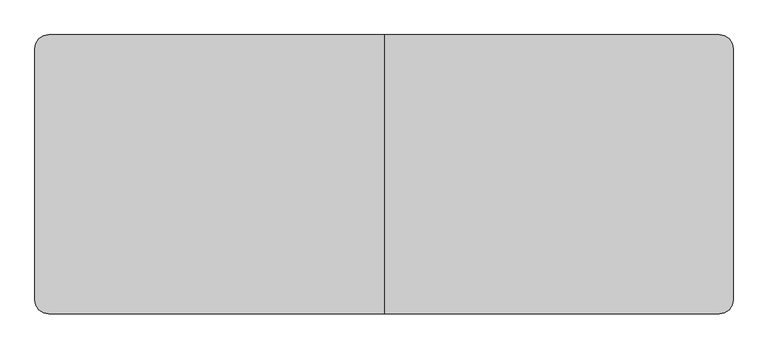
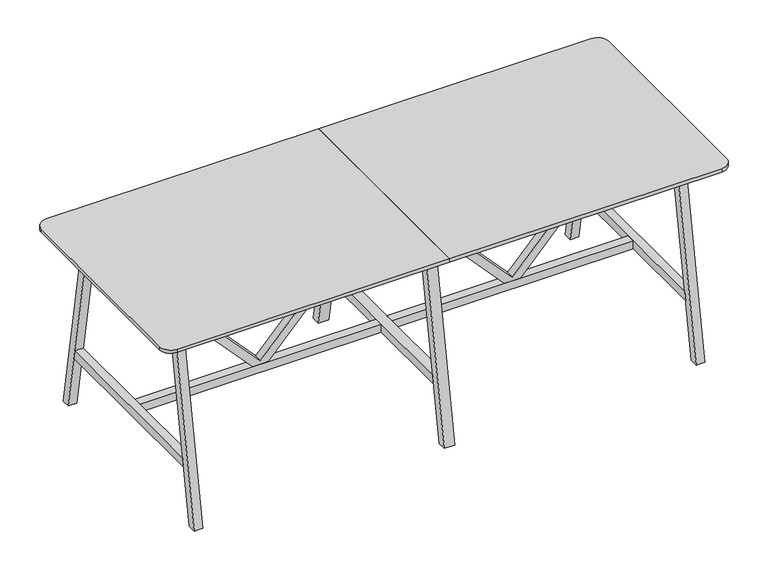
"""IFC4 building model written with IfcOpenShell, lengths in millimetres: furniture geometry, BDG_BossDesign_Tbls_AgentTables6Legs : AGE-HT-6L-3000-1200-3D."""

from ifc_helpers import new_model, si_unit, point, frame, frame_2d, origin, place, context, project, spatial, polyline, circle_curve, trimmed, segment, composite_curve, outline, extrude, source, transform, mapped, element, save


def furniture_60e90959(model_context):
    return source(origin(), model_context, "Body", "SweptSolid", [
        extrude(outline(polyline([(345.0, 624.0823957), (345.0, 708.4176043), (992.0, 1305.0), (1032.0, 1305.0), (1032.0, 1285.0), (365.0, 666.25), (1032.0, 47.5), (1032.0, 27.5), (992.0, 27.5), (345.0, 624.0823957)])), frame((0.0, -22.5000305, 0.0), z_axis=(0.0, 1.0, 0.0), x_axis=(0.0, 0.0, 1.0)), (0.0, 0.0, 1.0), 45.000061),
        extrude(outline(polyline([(345.0, -624.0823957), (992.0, -27.5), (1032.0, -27.5), (1032.0, -47.5), (365.0, -666.25), (1032.0, -1285.0), (1032.0, -1305.0), (992.0, -1305.0), (345.0, -708.4176043), (345.0, -624.0823957)])), frame((0.0, -22.5000305, 0.0), z_axis=(0.0, 1.0, 0.0), x_axis=(0.0, 0.0, 1.0)), (0.0, 0.0, 1.0), 45.000061),
        extrude(outline(polyline([(600.0, 0.0), (554.9999949, 0.0), (385.5, 970.0), (430.5000051, 970.0), (600.0, 0.0)])), frame((-27.5, 0.0, 0.0), z_axis=(1.0, 0.0, 0.0), x_axis=(0.0, 1.0, 0.0)), (0.0, 0.0, 1.0), 55.0),
        extrude(outline(polyline([(-600.0, 0.0), (-430.5000051, 970.0), (-385.5, 970.0), (-554.9999949, 0.0), (-600.0, 0.0)])), frame((-27.5, 0.0, 0.0), z_axis=(1.0, 0.0, 0.0), x_axis=(0.0, 1.0, 0.0)), (0.0, 0.0, 1.0), 55.0),
        extrude(outline(polyline([(502.5773161, 300.0), (-502.5773161, 300.0), (-494.7139143, 345.0), (494.7139143, 345.0), (502.5773161, 300.0)])), frame((-27.5, 0.0, 0.0), z_axis=(1.0, 0.0, 0.0), x_axis=(0.0, 1.0, 0.0)), (0.0, 0.0, 1.0), 55.0),
        extrude(outline(composite_curve([segment(polyline([(0.0, 600.0), (0.0, -600.0), (-1440.0, -600.0)]), True, "CONTINUOUS"), segment(trimmed(circle_curve(frame_2d((-1440.0, -540.0)), 60.0), [point((-1440.0, -600.0))], [point((-1500.0, -540.0))], False, "CARTESIAN"), True, "CONTINUOUS"), segment(polyline([(-1500.0, -540.0), (-1500.0, 540.0)]), True, "CONTINUOUS"), segment(trimmed(circle_curve(frame_2d((-1440.0, 540.0)), 60.0), [point((-1500.0, 540.0))], [point((-1440.0, 600.0))], False, "CARTESIAN"), True, "CONTINUOUS"), segment(polyline([(-1440.0, 600.0), (0.0, 600.0)]), True, "CONTINUOUS")], self_intersect=False)), frame((0.0, 0.0, 1032.0), z_axis=(0.0, 0.0, 1.0), x_axis=(1.0, 0.0, 0.0)), (0.0, 0.0, 1.0), 18.0),
        extrude(outline(polyline([(-494.7139143, 345.0), (494.7139143, 345.0), (502.5773161, 300.0), (-502.5773161, 300.0), (-494.7139143, 345.0)])), frame((1305.0, 0.0, 0.0), z_axis=(1.0, 0.0, 0.0), x_axis=(0.0, 1.0, 0.0)), (0.0, 0.0, 1.0), 45.0),
        extrude(outline(polyline([(600.0, 0.0), (554.9999949, 0.0), (385.5, 970.0), (430.5000051, 970.0), (600.0, 0.0)])), frame((-1350.0, 0.0, 0.0), z_axis=(1.0, 0.0, 0.0), x_axis=(0.0, 1.0, 0.0)), (0.0, 0.0, 1.0), 45.0),
        extrude(outline(polyline([(-600.0, 0.0), (-430.5000051, 970.0), (-385.5, 970.0), (-554.9999949, 0.0), (-600.0, 0.0)])), frame((-1350.0, 0.0, 0.0), z_axis=(1.0, 0.0, 0.0), x_axis=(0.0, 1.0, 0.0)), (0.0, 0.0, 1.0), 45.0),
        extrude(outline(polyline([(-494.7139143, 345.0), (494.7139143, 345.0), (502.5773161, 300.0), (-502.5773161, 300.0), (-494.7139143, 345.0)])), frame((-1350.0, 0.0, 0.0), z_axis=(1.0, 0.0, 0.0), x_axis=(0.0, 1.0, 0.0)), (0.0, 0.0, 1.0), 45.0),
        extrude(outline(polyline([(-426.6006165, 944.973938), (-404.2770691, 1032.0), (-379.5, 1032.0), (-401.8235474, 944.973938), (-426.6006165, 944.973938)])), frame((-1305.0, 0.0, 0.0), z_axis=(1.0, 0.0, 0.0), x_axis=(0.0, 1.0, 0.0)), (0.0, 0.0, 1.0), 2610.0),
        extrude(outline(polyline([(426.6006165, 944.973938), (401.8235474, 944.973938), (379.5, 1032.0), (404.2770691, 1032.0), (426.6006165, 944.973938)])), frame((-1305.0, 0.0, 0.0), z_axis=(1.0, 0.0, 0.0), x_axis=(0.0, 1.0, 0.0)), (0.0, 0.0, 1.0), 2610.0),
        extrude(outline(polyline([(599.7999878, 0.0), (554.7999827, 0.0), (385.5, 970.0), (430.5000051, 970.0), (599.7999878, 0.0)])), frame((1305.0, 0.0, 0.0), z_axis=(1.0, 0.0, 0.0), x_axis=(0.0, 1.0, 0.0)), (0.0, 0.0, 1.0), 45.0),
        extrude(outline(polyline([(-599.7999878, 0.0), (-430.5000051, 970.0), (-385.5, 970.0), (-554.7999827, 0.0), (-599.7999878, 0.0)])), frame((1305.0, 0.0, 0.0), z_axis=(1.0, 0.0, 0.0), x_axis=(0.0, 1.0, 0.0)), (0.0, 0.0, 1.0), 45.0),
        extrude(outline(polyline([(-27.5, 22.5000305), (-27.5, -22.5000305), (-1305.0, -22.5000305), (-1305.0, 22.5000305), (-27.5, 22.5000305)])), frame((0.0, 0.0, 300.0), z_axis=(0.0, 0.0, 1.0), x_axis=(1.0, 0.0, 0.0)), (0.0, 0.0, 1.0), 45.0),
        extrude(outline(polyline([(27.5, -22.5000305), (27.5, 22.5000305), (1305.0, 22.5000305), (1305.0, -22.5000305), (27.5, -22.5000305)])), frame((0.0, 0.0, 300.0), z_axis=(0.0, 0.0, 1.0), x_axis=(1.0, 0.0, 0.0)), (0.0, 0.0, 1.0), 45.0),
        extrude(outline(composite_curve([segment(trimmed(circle_curve(frame_2d((1440.0, 540.0)), 60.0), [point((1440.0, 600.0))], [point((1500.0, 540.0))], False, "CARTESIAN"), True, "CONTINUOUS"), segment(polyline([(1500.0, 540.0), (1500.0, -540.0)]), True, "CONTINUOUS"), segment(trimmed(circle_curve(frame_2d((1440.0, -540.0)), 60.0), [point((1500.0, -540.0))], [point((1440.0, -600.0))], False, "CARTESIAN"), True, "CONTINUOUS"), segment(polyline([(1440.0, -600.0), (0.0, -600.0), (0.0, 600.0), (1440.0, 600.0)]), True, "CONTINUOUS")], self_intersect=False)), frame((0.0, 0.0, 1032.0), z_axis=(0.0, 0.0, 1.0), x_axis=(1.0, 0.0, 0.0)), (0.0, 0.0, 1.0), 18.0),
    ])


if __name__ == "__main__":
    model = new_model("IFC4")
    model_context = context("Model", 3, world=origin())
    ifc_project = project(units=[si_unit("LENGTHUNIT", "METRE", prefix="MILLI")], contexts=[model_context])
    site = spatial("IfcSite", under=ifc_project)
    building = spatial("IfcBuilding", under=site)
    placement = place(None, origin())
    furniture_shape = furniture_60e90959(model_context)
    element("IfcFurniture", 1, ObjectType="BDG_BossDesign_Tbls_AgentTables6Legs : AGE-HT-6L-3000-1200-3D", at=placement, inside=building, context=model_context, shape_type="MappedRepresentation", body=[
        mapped(furniture_shape, transform((0.0, 0.0, 0.0), x_axis=(1.0, 0.0, 0.0), y_axis=(0.0, 1.0, 0.0), z_axis=(0.0, 0.0, 1.0))),
    ])
    save(model, "model.ifc")
